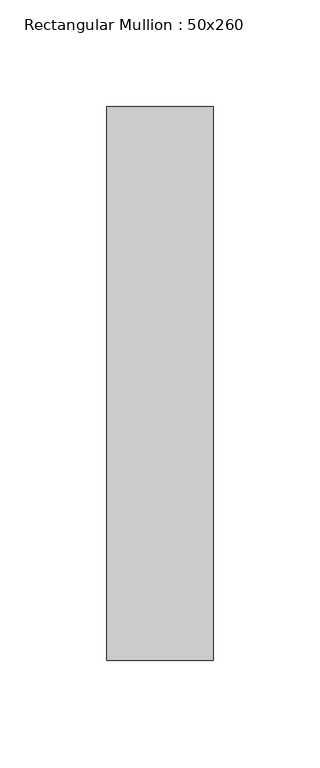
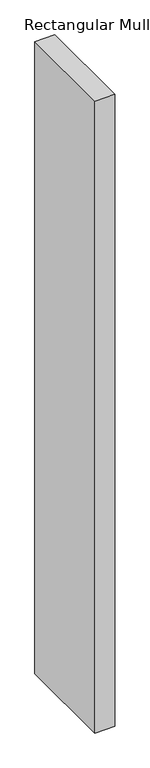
"""IFC4 building model written with IfcOpenShell, lengths in millimetres: member geometry, Rectangular Mullion : 50x260."""

from ifc_helpers import new_model, si_unit, frame, origin, place, context, project, spatial, polyline, outline, extrude, source, transform, mapped, element, save


def rectangular_mullion_50x260_3e624ed4(model_context):
    return source(origin(), model_context, "Body", "SweptSolid", [
        extrude(outline(polyline([(0.0, 130.0), (0.0, -130.0), (-50.0, -130.0), (-50.0, 130.0), (0.0, 130.0)])), frame((0.0, 0.0, -1672.3972723), z_axis=(0.0, 0.0, 1.0), x_axis=(1.0, 0.0, 0.0)), (0.0, 0.0, 1.0), 1672.3972723),
    ])


if __name__ == "__main__":
    model = new_model("IFC4")
    model_context = context("Model", 3, world=origin())
    ifc_project = project(units=[si_unit("LENGTHUNIT", "METRE", prefix="MILLI")], contexts=[model_context])
    site = spatial("IfcSite", under=ifc_project)
    building = spatial("IfcBuilding", under=site)
    placement = place(None, origin())
    rectangular_mullion_50x260_shape = rectangular_mullion_50x260_3e624ed4(model_context)
    element("IfcMember", 1, ObjectType="Rectangular Mullion : 50x260", at=placement, inside=building, context=model_context, shape_type="MappedRepresentation", body=[
        mapped(rectangular_mullion_50x260_shape, transform((0.0, 0.0, 0.0), x_axis=(1.0, 0.0, 0.0), y_axis=(0.0, 1.0, 0.0), z_axis=(0.0, 0.0, 1.0))),
    ])
    save(model, "model.ifc")
